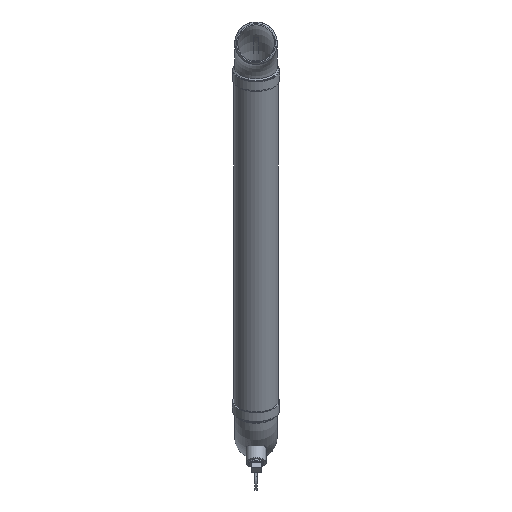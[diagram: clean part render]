
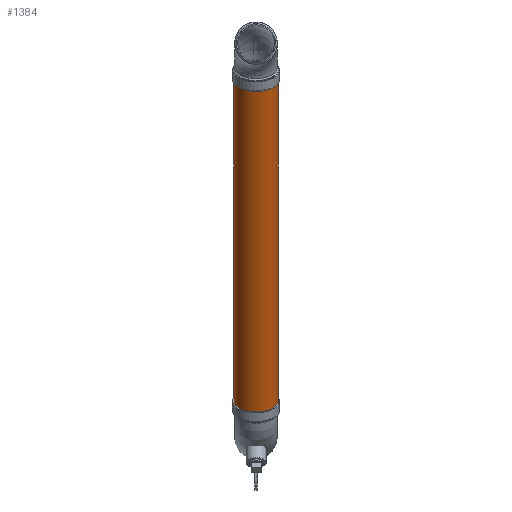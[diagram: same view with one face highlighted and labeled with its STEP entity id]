
A CAD part, front view. The second image highlights one B-rep face of the part: STEP entity #1384.
In plain terms, the highlighted cylindrical face has radius 31.394 mm (diameter 62.789 mm), a full revolution.
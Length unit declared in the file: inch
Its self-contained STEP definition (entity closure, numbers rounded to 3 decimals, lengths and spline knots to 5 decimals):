
#264=CIRCLE('',#1580,1.236);
#265=CIRCLE('',#1581,1.236);
#344=FACE_BOUND('',#611,.T.);
#441=FACE_OUTER_BOUND('',#610,.T.);
#610=EDGE_LOOP('',(#1138));
#611=EDGE_LOOP('',(#1139));
#731=VERTEX_POINT('',#2456);
#732=VERTEX_POINT('',#2458);
#868=EDGE_CURVE('',#731,#731,#264,.T.);
#869=EDGE_CURVE('',#732,#732,#265,.T.);
#1138=ORIENTED_EDGE('',*,*,#868,.T.);
#1139=ORIENTED_EDGE('',*,*,#869,.F.);
#1176=CYLINDRICAL_SURFACE('',#1579,1.236);
#1384=ADVANCED_FACE('',(#441,#344),#1176,.T.);
#1579=AXIS2_PLACEMENT_3D('',#2455,#1980,#1981);
#1580=AXIS2_PLACEMENT_3D('',#2457,#1982,#1983);
#1581=AXIS2_PLACEMENT_3D('',#2459,#1984,#1985);
#1980=DIRECTION('center_axis',(0.,-0.5,
0.866));
#1981=DIRECTION('ref_axis',(0.115,-0.86,-0.497));
#1982=DIRECTION('center_axis',(0.,0.5,-0.866));
#1983=DIRECTION('ref_axis',(0.115,-0.86,-0.497));
#1984=DIRECTION('center_axis',(0.,0.5,-0.866));
#1985=DIRECTION('ref_axis',(0.115,-0.86,-0.497));
#2455=CARTESIAN_POINT('Origin',(0.00611,-2.59808,-20.5625));
#2456=CARTESIAN_POINT('',(-0.13575,-12.53474,-0.89603));
#2457=CARTESIAN_POINT('Origin',(0.00611,-13.59808,-1.50994));
#2458=CARTESIAN_POINT('',(-0.13575,-1.53474,-19.94858));
#2459=CARTESIAN_POINT('Origin',(0.00611,-2.59808,-20.5625));
